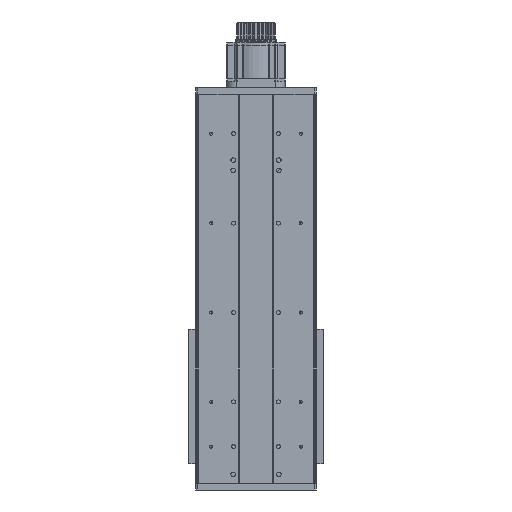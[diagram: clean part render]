
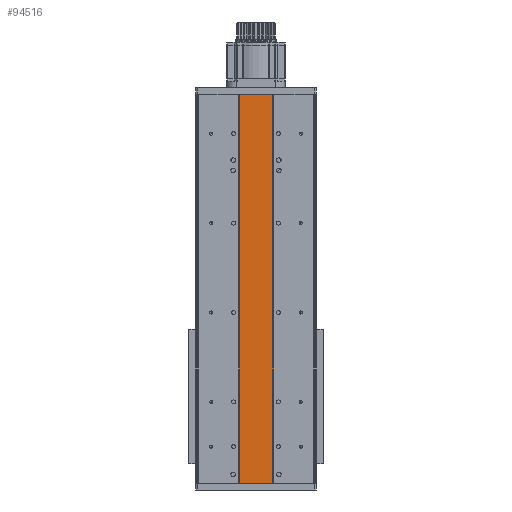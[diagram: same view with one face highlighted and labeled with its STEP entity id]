
A CAD part, front view. The second image highlights one B-rep face of the part: STEP entity #94516.
In plain terms, the highlighted planar face has unit normal (0, -1, 0).
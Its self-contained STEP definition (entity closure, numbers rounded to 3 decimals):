
#750 = CARTESIAN_POINT ( 'NONE',  ( -38., 0., 870. ) ) ;
#4832 = EDGE_CURVE ( 'NONE', #104829, #16485, #73419, .T. ) ;
#6997 = DIRECTION ( 'NONE',  ( 0., 1., 0. ) ) ;
#11184 = VECTOR ( 'NONE', #64470, 1000. ) ;
#14183 = DIRECTION ( 'NONE',  ( 1., 0., 0. ) ) ;
#16485 = VERTEX_POINT ( 'NONE', #39694 ) ;
#18764 = ORIENTED_EDGE ( 'NONE', *, *, #92206, .F. ) ;
#19194 = VECTOR ( 'NONE', #59763, 1000. ) ;
#20719 = DIRECTION ( 'NONE',  ( 0., 0., -1. ) ) ;
#22578 = LINE ( 'NONE', #59143, #72350 ) ;
#27887 = CARTESIAN_POINT ( 'NONE',  ( 38., 0., 870. ) ) ;
#39694 = CARTESIAN_POINT ( 'NONE',  ( 38., 0., 0. ) ) ;
#40007 = CARTESIAN_POINT ( 'NONE',  ( -38., 0., 0. ) ) ;
#41206 = LINE ( 'NONE', #40007, #19194 ) ;
#48323 = ORIENTED_EDGE ( 'NONE', *, *, #94378, .T. ) ;
#52929 = VERTEX_POINT ( 'NONE', #72755 ) ;
#59143 = CARTESIAN_POINT ( 'NONE',  ( -38., 0., 870. ) ) ;
#59536 = ORIENTED_EDGE ( 'NONE', *, *, #110746, .T. ) ;
#59763 = DIRECTION ( 'NONE',  ( 1., 0., 0. ) ) ;
#64470 = DIRECTION ( 'NONE',  ( 0., 0., -1. ) ) ;
#65493 = DIRECTION ( 'NONE',  ( -1., 0., 0. ) ) ;
#65867 = CARTESIAN_POINT ( 'NONE',  ( -38., 0., 0. ) ) ;
#66263 = LINE ( 'NONE', #102767, #84359 ) ;
#72350 = VECTOR ( 'NONE', #14183, 1000. ) ;
#72755 = CARTESIAN_POINT ( 'NONE',  ( -38., 0., 870. ) ) ;
#73419 = LINE ( 'NONE', #27887, #11184 ) ;
#74655 = CARTESIAN_POINT ( 'NONE',  ( 38., 0., 870. ) ) ;
#75293 = ORIENTED_EDGE ( 'NONE', *, *, #4832, .F. ) ;
#76928 = EDGE_LOOP ( 'NONE', ( #48323, #75293, #18764, #59536 ) ) ;
#80677 = FACE_OUTER_BOUND ( 'NONE', #76928, .T. ) ;
#82084 = VERTEX_POINT ( 'NONE', #65867 ) ;
#84359 = VECTOR ( 'NONE', #20719, 1000. ) ;
#92206 = EDGE_CURVE ( 'NONE', #52929, #104829, #22578, .T. ) ;
#94378 = EDGE_CURVE ( 'NONE', #82084, #16485, #41206, .T. ) ;
#94516 = ADVANCED_FACE ( 'NONE', ( #80677 ), #117222, .F. ) ;
#102767 = CARTESIAN_POINT ( 'NONE',  ( -38., 0., 870. ) ) ;
#104829 = VERTEX_POINT ( 'NONE', #74655 ) ;
#110746 = EDGE_CURVE ( 'NONE', #52929, #82084, #66263, .T. ) ;
#114844 = AXIS2_PLACEMENT_3D ( 'NONE', #750, #6997, #65493 ) ;
#117222 = PLANE ( 'NONE',  #114844 ) ;
